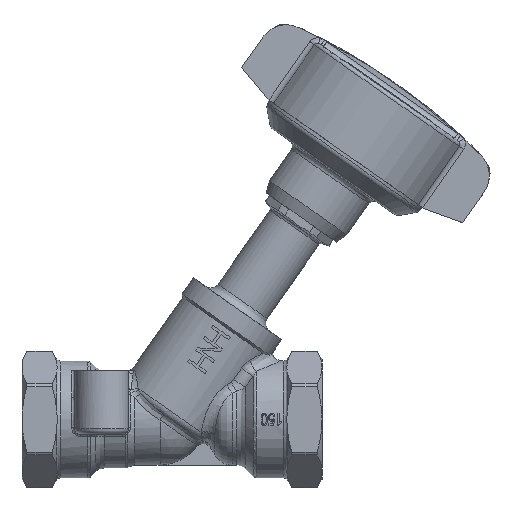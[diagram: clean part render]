
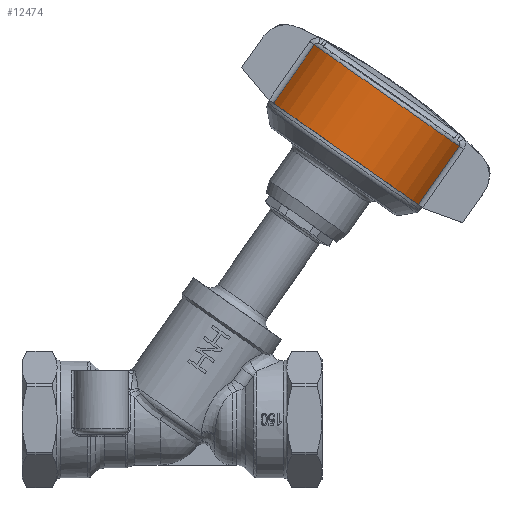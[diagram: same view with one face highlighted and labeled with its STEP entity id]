
A CAD part, front view. The second image highlights one B-rep face of the part: STEP entity #12474.
In plain terms, the highlighted cylindrical face has radius 31.925 mm (diameter 63.85 mm), a partial arc.
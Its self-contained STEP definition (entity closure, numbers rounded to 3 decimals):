
#11333=CARTESIAN_POINT('',(45.681,-12.348,91.032));
#11334=VERTEX_POINT('',#11333);
#11342=CARTESIAN_POINT('',(32.088,-12.348,71.618));
#11343=VERTEX_POINT('',#11342);
#11344=CARTESIAN_POINT('',(45.681,-12.348,91.032));
#11345=DIRECTION('',(-0.574,0.,-0.819));
#11346=VECTOR('',#11345,23.7);
#11347=LINE('',#11344,#11346);
#11348=EDGE_CURVE('',#11334,#11343,#11347,.T.);
#11743=CARTESIAN_POINT('',(-2.565,-12.308,124.814));
#11744=VERTEX_POINT('',#11743);
#11774=CARTESIAN_POINT('',(-16.158,-12.308,105.4));
#11775=VERTEX_POINT('',#11774);
#11783=CARTESIAN_POINT('',(-16.158,-12.308,105.4));
#11784=DIRECTION('',(0.574,0.,0.819));
#11785=VECTOR('',#11784,23.7);
#11786=LINE('',#11783,#11785);
#11787=EDGE_CURVE('',#11775,#11744,#11786,.T.);
#12447=CARTESIAN_POINT('',(21.565,0.,107.918));
#12448=DIRECTION('',(-0.574,0.,-0.819));
#12449=DIRECTION('',(0.819,-0.001,-0.574));
#12450=AXIS2_PLACEMENT_3D('',#12447,#12448,#12449);
#12451=CIRCLE('',#12450,31.925);
#12452=EDGE_CURVE('',#11334,#11744,#12451,.T.);
#12457=CARTESIAN_POINT('',(14.768,0.,98.211));
#12458=DIRECTION('',(-0.574,0.,-0.819));
#12459=DIRECTION('',(0.819,-0.001,-0.574));
#12460=AXIS2_PLACEMENT_3D('',#12457,#12458,#12459);
#12461=CYLINDRICAL_SURFACE('',#12460,31.925);
#12462=ORIENTED_EDGE('',*,*,#11348,.F.);
#12463=ORIENTED_EDGE('',*,*,#12452,.T.);
#12464=ORIENTED_EDGE('',*,*,#11787,.F.);
#12465=CARTESIAN_POINT('',(7.971,0.,88.504));
#12466=DIRECTION('',(-0.574,0.,-0.819));
#12467=DIRECTION('',(0.819,-0.001,-0.574));
#12468=AXIS2_PLACEMENT_3D('',#12465,#12466,#12467);
#12469=CIRCLE('',#12468,31.925);
#12470=EDGE_CURVE('',#11343,#11775,#12469,.T.);
#12471=ORIENTED_EDGE('',*,*,#12470,.F.);
#12472=EDGE_LOOP('',(#12462,#12463,#12464,#12471));
#12473=FACE_OUTER_BOUND('',#12472,.T.);
#12474=ADVANCED_FACE('',(#12473),#12461,.T.);
